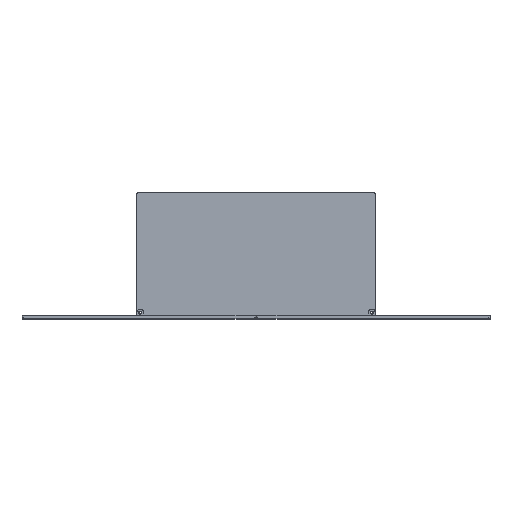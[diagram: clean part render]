
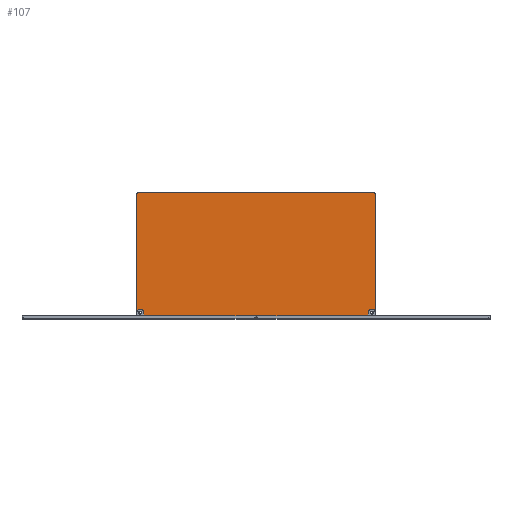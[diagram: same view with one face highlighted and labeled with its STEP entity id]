
A CAD part, top view. The second image highlights one B-rep face of the part: STEP entity #107.
In plain terms, the highlighted planar face has unit normal (0, 0, 1).
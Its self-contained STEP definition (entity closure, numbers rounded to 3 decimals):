
#107=ADVANCED_FACE('',(#575,#481,#482),#6126,.T.);
#481=FACE_BOUND('',#1003,.T.);
#482=FACE_BOUND('',#1004,.T.);
#575=FACE_OUTER_BOUND('',#1002,.T.);
#1002=EDGE_LOOP('',(#1681,#1682,#1683,#1684,#1685,#1686,#1687,#1688));
#1003=EDGE_LOOP('',(#1689,#1690));
#1004=EDGE_LOOP('',(#1691,#1692));
#1681=ORIENTED_EDGE('',*,*,#3511,.T.);
#1682=ORIENTED_EDGE('',*,*,#3487,.T.);
#1683=ORIENTED_EDGE('',*,*,#3508,.T.);
#1684=ORIENTED_EDGE('',*,*,#3488,.T.);
#1685=ORIENTED_EDGE('',*,*,#3500,.T.);
#1686=ORIENTED_EDGE('',*,*,#3489,.T.);
#1687=ORIENTED_EDGE('',*,*,#3505,.T.);
#1688=ORIENTED_EDGE('',*,*,#3484,.F.);
#1689=ORIENTED_EDGE('',*,*,#3515,.T.);
#1690=ORIENTED_EDGE('',*,*,#3493,.T.);
#1691=ORIENTED_EDGE('',*,*,#3518,.T.);
#1692=ORIENTED_EDGE('',*,*,#3496,.T.);
#3484=EDGE_CURVE('',#5382,#5383,#4868,.T.);
#3487=EDGE_CURVE('',#5385,#5386,#4871,.T.);
#3488=EDGE_CURVE('',#5387,#5388,#4872,.T.);
#3489=EDGE_CURVE('',#5389,#5390,#4873,.T.);
#3493=EDGE_CURVE('',#5391,#5392,#4373,.T.);
#3496=EDGE_CURVE('',#5393,#5394,#4376,.T.);
#3500=EDGE_CURVE('',#5388,#5389,#4379,.T.);
#3505=EDGE_CURVE('',#5390,#5383,#4382,.T.);
#3508=EDGE_CURVE('',#5386,#5387,#4383,.T.);
#3511=EDGE_CURVE('',#5382,#5385,#4385,.T.);
#3515=EDGE_CURVE('',#5392,#5391,#4389,.T.);
#3518=EDGE_CURVE('',#5394,#5393,#4392,.T.);
#4373=(
BOUNDED_CURVE()
B_SPLINE_CURVE(2,(#7868,#7869,#7870,#7871,#7872),.UNSPECIFIED.,.F.,.F.)
B_SPLINE_CURVE_WITH_KNOTS((3,2,3),(-8.,-4.,0.),
 .UNSPECIFIED.)
CURVE()
GEOMETRIC_REPRESENTATION_ITEM()
RATIONAL_B_SPLINE_CURVE((1.,0.707,1.,0.707,1.))
REPRESENTATION_ITEM('')
);
#4376=(
BOUNDED_CURVE()
B_SPLINE_CURVE(2,(#7880,#7881,#7882,#7883,#7884),.UNSPECIFIED.,.F.,.F.)
B_SPLINE_CURVE_WITH_KNOTS((3,2,3),(-8.,-4.,
0.),.UNSPECIFIED.)
CURVE()
GEOMETRIC_REPRESENTATION_ITEM()
RATIONAL_B_SPLINE_CURVE((1.,0.707,1.,0.707,1.))
REPRESENTATION_ITEM('')
);
#4379=(
BOUNDED_CURVE()
B_SPLINE_CURVE(2,(#7894,#7895,#7896),.UNSPECIFIED.,.F.,.F.)
B_SPLINE_CURVE_WITH_KNOTS((3,3),(-10.,0.),.UNSPECIFIED.)
CURVE()
GEOMETRIC_REPRESENTATION_ITEM()
RATIONAL_B_SPLINE_CURVE((1.,0.707,1.))
REPRESENTATION_ITEM('')
);
#4382=(
BOUNDED_CURVE()
B_SPLINE_CURVE(2,(#7907,#7908,#7909),.UNSPECIFIED.,.F.,.F.)
B_SPLINE_CURVE_WITH_KNOTS((3,3),(-10.,0.),.UNSPECIFIED.)
CURVE()
GEOMETRIC_REPRESENTATION_ITEM()
RATIONAL_B_SPLINE_CURVE((1.,0.707,1.))
REPRESENTATION_ITEM('')
);
#4383=(
BOUNDED_CURVE()
B_SPLINE_CURVE(2,(#7914,#7915,#7916),.UNSPECIFIED.,.F.,.F.)
B_SPLINE_CURVE_WITH_KNOTS((3,3),(-4.,0.),.UNSPECIFIED.)
CURVE()
GEOMETRIC_REPRESENTATION_ITEM()
RATIONAL_B_SPLINE_CURVE((1.,0.707,1.))
REPRESENTATION_ITEM('')
);
#4385=(
BOUNDED_CURVE()
B_SPLINE_CURVE(2,(#7922,#7923,#7924),.UNSPECIFIED.,.F.,.F.)
B_SPLINE_CURVE_WITH_KNOTS((3,3),(-4.,0.),.UNSPECIFIED.)
CURVE()
GEOMETRIC_REPRESENTATION_ITEM()
RATIONAL_B_SPLINE_CURVE((1.,0.707,1.))
REPRESENTATION_ITEM('')
);
#4389=(
BOUNDED_CURVE()
B_SPLINE_CURVE(2,(#7935,#7936,#7937,#7938,#7939),.UNSPECIFIED.,.F.,.F.)
B_SPLINE_CURVE_WITH_KNOTS((3,2,3),(-8.,-4.,0.),
 .UNSPECIFIED.)
CURVE()
GEOMETRIC_REPRESENTATION_ITEM()
RATIONAL_B_SPLINE_CURVE((1.,0.707,1.,0.707,1.))
REPRESENTATION_ITEM('')
);
#4392=(
BOUNDED_CURVE()
B_SPLINE_CURVE(2,(#7947,#7948,#7949,#7950,#7951),.UNSPECIFIED.,.F.,.F.)
B_SPLINE_CURVE_WITH_KNOTS((3,2,3),(-8.,-4.,
0.),.UNSPECIFIED.)
CURVE()
GEOMETRIC_REPRESENTATION_ITEM()
RATIONAL_B_SPLINE_CURVE((1.,0.707,1.,0.707,1.))
REPRESENTATION_ITEM('')
);
#4868=B_SPLINE_CURVE_WITH_KNOTS('',1,(#7850,#7851),.UNSPECIFIED.,.F.,.F.,
(2,2),(0.,150.),.UNSPECIFIED.);
#4871=B_SPLINE_CURVE_WITH_KNOTS('',1,(#7856,#7857),.UNSPECIFIED.,.F.,.F.,
(2,2),(0.,300.),.UNSPECIFIED.);
#4872=B_SPLINE_CURVE_WITH_KNOTS('',1,(#7858,#7859),.UNSPECIFIED.,.F.,.F.,
(2,2),(0.,150.),.UNSPECIFIED.);
#4873=B_SPLINE_CURVE_WITH_KNOTS('',1,(#7860,#7861),.UNSPECIFIED.,.F.,.F.,
(2,2),(0.,294.),.UNSPECIFIED.);
#5382=VERTEX_POINT('',#7825);
#5383=VERTEX_POINT('',#7826);
#5385=VERTEX_POINT('',#7828);
#5386=VERTEX_POINT('',#7829);
#5387=VERTEX_POINT('',#7830);
#5388=VERTEX_POINT('',#7831);
#5389=VERTEX_POINT('',#7832);
#5390=VERTEX_POINT('',#7833);
#5391=VERTEX_POINT('',#7834);
#5392=VERTEX_POINT('',#7835);
#5393=VERTEX_POINT('',#7836);
#5394=VERTEX_POINT('',#7837);
#6126=PLANE('',#6411);
#6411=AXIS2_PLACEMENT_3D('',#7811,#6711,$);
#6711=DIRECTION('',(0.,0.,1.));
#7811=CARTESIAN_POINT('',(-170.934,-28.356,499.5));
#7825=CARTESIAN_POINT('',(163.478,142.356,499.5));
#7826=CARTESIAN_POINT('',(163.478,-7.644,499.5));
#7828=CARTESIAN_POINT('',(161.478,144.356,499.5));
#7829=CARTESIAN_POINT('',(-138.522,144.356,499.5));
#7830=CARTESIAN_POINT('',(-140.522,142.356,499.5));
#7831=CARTESIAN_POINT('',(-140.522,-7.644,499.5));
#7832=CARTESIAN_POINT('',(-135.522,-12.644,499.5));
#7833=CARTESIAN_POINT('',(158.478,-12.644,499.5));
#7834=CARTESIAN_POINT('',(-134.023,-8.194,499.5));
#7835=CARTESIAN_POINT('',(-138.022,-8.093,499.5));
#7836=CARTESIAN_POINT('',(156.979,-8.194,499.5));
#7837=CARTESIAN_POINT('',(160.977,-8.093,499.5));
#7850=CARTESIAN_POINT('',(163.478,142.356,499.5));
#7851=CARTESIAN_POINT('',(163.478,-7.644,499.5));
#7856=CARTESIAN_POINT('',(161.478,144.356,499.5));
#7857=CARTESIAN_POINT('',(-138.522,144.356,499.5));
#7858=CARTESIAN_POINT('',(-140.522,142.356,499.5));
#7859=CARTESIAN_POINT('',(-140.522,-7.644,499.5));
#7860=CARTESIAN_POINT('',(-135.522,-12.644,499.5));
#7861=CARTESIAN_POINT('',(158.478,-12.644,499.5));
#7868=CARTESIAN_POINT('',(-134.023,-8.194,499.5));
#7869=CARTESIAN_POINT('',(-134.073,-10.194,499.5));
#7870=CARTESIAN_POINT('',(-136.073,-10.143,499.5));
#7871=CARTESIAN_POINT('',(-138.072,-10.093,499.5));
#7872=CARTESIAN_POINT('',(-138.022,-8.093,499.5));
#7880=CARTESIAN_POINT('',(156.979,-8.194,499.5));
#7881=CARTESIAN_POINT('',(156.928,-6.195,499.5));
#7882=CARTESIAN_POINT('',(158.928,-6.144,499.5));
#7883=CARTESIAN_POINT('',(160.927,-6.094,499.5));
#7884=CARTESIAN_POINT('',(160.977,-8.093,499.5));
#7894=CARTESIAN_POINT('',(-140.522,-7.644,499.5));
#7895=CARTESIAN_POINT('',(-140.522,-12.644,499.5));
#7896=CARTESIAN_POINT('',(-135.522,-12.644,499.5));
#7907=CARTESIAN_POINT('',(158.478,-12.644,499.5));
#7908=CARTESIAN_POINT('',(163.478,-12.644,499.5));
#7909=CARTESIAN_POINT('',(163.478,-7.644,499.5));
#7914=CARTESIAN_POINT('',(-138.522,144.356,499.5));
#7915=CARTESIAN_POINT('',(-140.522,144.356,499.5));
#7916=CARTESIAN_POINT('',(-140.522,142.356,499.5));
#7922=CARTESIAN_POINT('',(163.478,142.356,499.5));
#7923=CARTESIAN_POINT('',(163.478,144.356,499.5));
#7924=CARTESIAN_POINT('',(161.478,144.356,499.5));
#7935=CARTESIAN_POINT('',(-138.022,-8.093,499.5));
#7936=CARTESIAN_POINT('',(-137.971,-6.094,499.5));
#7937=CARTESIAN_POINT('',(-135.972,-6.144,499.5));
#7938=CARTESIAN_POINT('',(-133.972,-6.195,499.5));
#7939=CARTESIAN_POINT('',(-134.023,-8.194,499.5));
#7947=CARTESIAN_POINT('',(160.977,-8.093,499.5));
#7948=CARTESIAN_POINT('',(161.028,-10.093,499.5));
#7949=CARTESIAN_POINT('',(159.028,-10.143,499.5));
#7950=CARTESIAN_POINT('',(157.029,-10.194,499.5));
#7951=CARTESIAN_POINT('',(156.979,-8.194,499.5));
